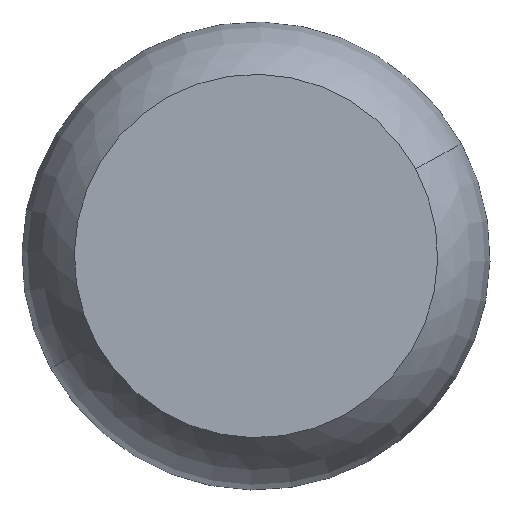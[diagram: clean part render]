
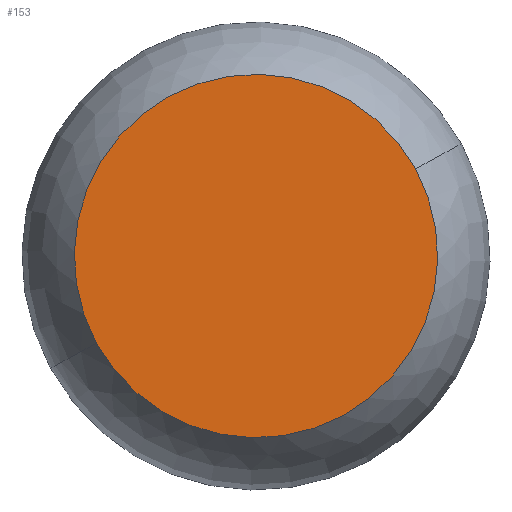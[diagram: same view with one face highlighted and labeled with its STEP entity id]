
A CAD part, front view. The second image highlights one B-rep face of the part: STEP entity #153.
In plain terms, the highlighted planar face has unit normal (0, -1, 0).
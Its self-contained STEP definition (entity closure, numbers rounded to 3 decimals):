
#66=CARTESIAN_POINT('Axis2P3D Location',(0.,0.,0.)) ;
#70=CARTESIAN_POINT('Vertex',(103.555,0.,56.572)) ;
#72=CARTESIAN_POINT('Vertex',(-103.555,0.,-56.572)) ;
#127=CARTESIAN_POINT('Axis2P3D Location',(0.,0.,0.)) ;
#144=CARTESIAN_POINT('Axis2P3D Location',(0.,0.,0.)) ;
#67=DIRECTION('Axis2P3D Direction',(0.,-1.,0.)) ;
#128=DIRECTION('Axis2P3D Direction',(0.,-1.,0.)) ;
#145=DIRECTION('Axis2P3D Direction',(0.,-1.,0.)) ;
#146=DIRECTION('Axis2P3D XDirection',(1.,0.,0.)) ;
#68=AXIS2_PLACEMENT_3D('Circle Axis2P3D',#66,#67,$) ;
#129=AXIS2_PLACEMENT_3D('Circle Axis2P3D',#127,#128,$) ;
#147=AXIS2_PLACEMENT_3D('Plane Axis2P3D',#144,#145,#146) ;
#150=ORIENTED_EDGE('',*,*,#74,.T.) ;
#151=ORIENTED_EDGE('',*,*,#131,.T.) ;
#153=ADVANCED_FACE('PartBody',(#152),#148,.T.) ;
#69=CIRCLE('generated circle',#68,118.) ;
#130=CIRCLE('generated circle',#129,118.) ;
#74=EDGE_CURVE('',#71,#73,#69,.T.) ;
#131=EDGE_CURVE('',#73,#71,#130,.T.) ;
#149=EDGE_LOOP('',(#150,#151)) ;
#152=FACE_OUTER_BOUND('',#149,.T.) ;
#148=PLANE('',#147) ;
#71=VERTEX_POINT('',#70) ;
#73=VERTEX_POINT('',#72) ;
